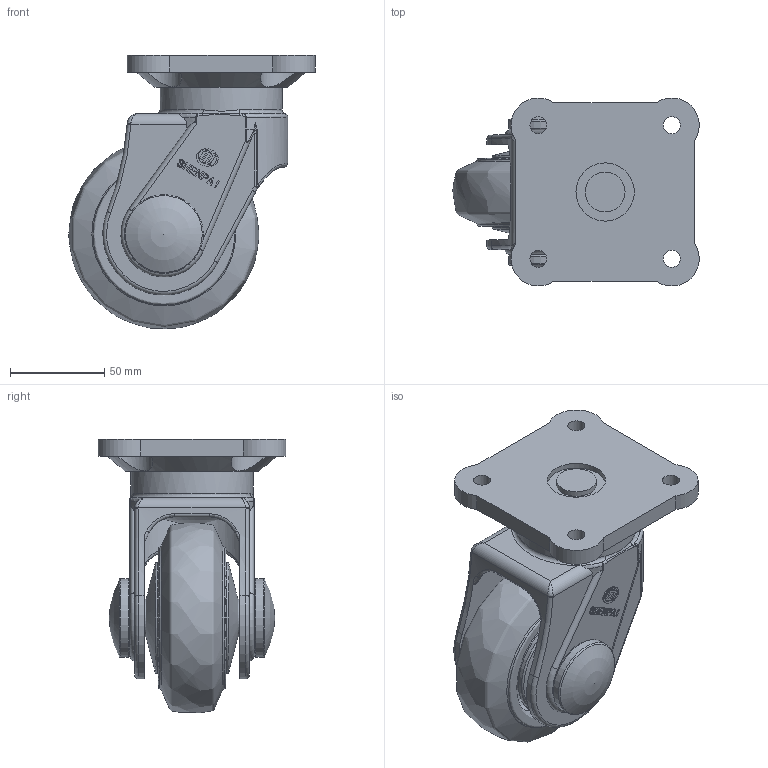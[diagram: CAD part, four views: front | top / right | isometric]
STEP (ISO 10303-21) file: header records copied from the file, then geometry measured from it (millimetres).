
FILE_DESCRIPTION(/* description */ (''),/* implementation_level */ '2;1');
FILE_NAME(/* name */ '56A01_4_F.stp',/* time_stamp */ '2022-08-29T11:28:54+08:00',/* author */ (''),/* organization */ (''),/* preprocessor_version */ 'ST-DEVELOPER v14',/* originating_system */ 'SIEMENS PLM Software NX 8.0',/* authorisation */ '');
FILE_SCHEMA (('AUTOMOTIVE_DESIGN { 1 0 10303 214 3 1 1 1 }'));
Length unit declared in the file: millimetre
Products named in the file (1): 56A01_4_F
Bounding box: 130.88 x 99.91 x 145.32 mm (x, y, z)
Volume: 498601.3 mm3; surface area: 127494.8 mm2
Topology: 1 solids, 8 shells, 373 faces, 919 edges, 587 vertices
Faces by surface type: plane 160, cylinder 107, bspline 40, torus 27, cone 14, extrusion 12, sphere 8, revolution 5
Full cylindrical faces by diameter (mm): 9 x4, 10 x3, 10.15 x2, 12 x1, 16 x1, 16.999 x3, 17 x1, 20 x5, 21 x1, 21.199 x1, 28 x1, 31 x1, 39.2 x3, 41.9 x3, 42.63 x1, 44.66 x1, 55 x2, 59 x2, 64.96 x1, 66 x1
Entity records: 12570 total; most frequent: CARTESIAN_POINT 4470, DIRECTION 1597, ORIENTED_EDGE 1590, EDGE_CURVE 795, AXIS2_PLACEMENT_3D 586, VERTEX_POINT 549, EDGE_LOOP 499, VECTOR 420
